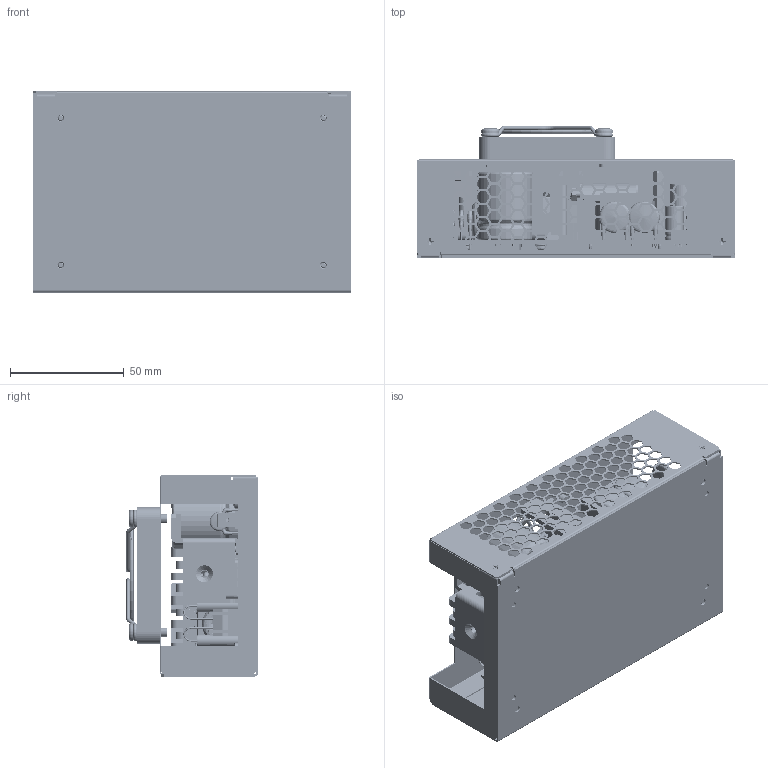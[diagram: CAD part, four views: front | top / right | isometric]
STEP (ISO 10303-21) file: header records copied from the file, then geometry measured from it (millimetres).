
FILE_DESCRIPTION (( 'STEP AP214' ), '1' );
FILE_NAME ('GCS250-TF.STEP', '2017-04-03T21:44:47', ( '' ), ( '' ), 'SwSTEP 2.0', 'SolidWorks 2016', '' );
FILE_SCHEMA (( 'AUTOMOTIVE_DESIGN' ));
Length unit declared in the file: inch
Products named in the file (48): L4; Fan 60mm x 10mm_FAN 60X10MM; 10015063A0; Conn_MLX_KK100_Hdr_02P; 1001436601; INSULATOR 10006903; Capacitor Disc_0.550 D_0.400 C; GCS250-BASE; SO-3.5M3-6ZI; Capacitor Elec_10mm D_25mm; Screw_PHP_M3 Sq Cone_01_8mm; SMPS-M2.5; Faston .25 X .032; Washer_Square_Cone_M3_8mm od_01; BASE-1.6H; Pot_Top adj_Type1_01; SCREW_PPH_M3_01_8mm; RES-3W; GCS250; GCS250-TF; TO92_01; inductor L5_25mm; Capacitor Film_18x11mm_15 LS_19mm H; Conn_JST_S10B-PHDSS-B_Vertical_1; Inductor Toroid_18.0mm OD_7mm Width; Screw_Sq Cone_no 4_01_.250; Bridge Rectifier_GBU6K_Lead trimed; Nut_Keps_4-40_Star_01; Capacitor Disc_0.300 D X .40 LS; Screw_Flat Head Phillips (Metric)_(1314)_M3 x 8; FUSE-0; CON MLX  .156 06P; TO220_3P_01; CON MLX  .156 3P; CAP FILM_17x5x11MM_15LS; Capacitor Elec_25mm D_30mm H; Inductor Toroid_20.0mm OD; M2.5X4_92010A012; 1001510201; Capacitor Elec_8mm D_20mm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
Assembly tree (83 placements, depth 4):
  GCS250-TF
    GCS250-BASE
      BASE-1.6H
      SMPS-M2.5  x2
      SO-3.5M3-6ZI  x4
      INSULATOR 10006903
      GCS250
        10015063A0
        10015867A0  x2
        Xfmr_GCS150
        1001510303
        1001510201
        Capacitor Elec_25mm D_30mm H
        CON MLX  .156 3P
        CON MLX  .156 06P
        FUSE-0  x2
        Capacitor Disc_0.300 D X .40 LS  x3
        Bridge Rectifier_GBU6K_Lead trimed
        Inductor Toroid_18.0mm OD_7mm Width  x2
        Capacitor Film_18x11mm_15 LS_19mm H  x2
        TO92_01  x2
        RES-3W  x2
        Pot_Top adj_Type1_01
        Faston .25 X .032
        Capacitor Elec_10mm D_25mm  x3
        Capacitor Disc_0.550 D_0.400 C  x4
        Conn_MLX_KK100_Hdr_02P
        L4
        Capacitor Elec_08mm D_13mm H  x2
        Capacitor Elec_06.3mm D_13mm H
        Capacitor Elec_8mm D_20mm
        Inductor Toroid_20.0mm OD
        CAP FILM_17x5x11MM_15LS  x2
        TO220_3P_01  x4
        Screw_Flat Head Phillips (Metric)_(1314)_M3 x 8  x3
        Nut_Keps_4-40_Star_01  x3
        Screw_Sq Cone_no 4_01_.250  x2
        Conn_JST_S10B-PHDSS-B_Vertical_1
        inductor L5_25mm
      Screw_PHP_M3 Sq Cone_01_8mm  x4
        SCREW_PPH_M3_01_8mm
        Washer_Square_Cone_M3_8mm od_01
    1001436601
      1001436601
      Fan 60mm x 10mm_FAN 60X10MM
      FAN-GARD-60X60-01
      SNAP-RIVET-SR4-15L  x4
    M2.5X4_92010A012  x4
Bounding box: 139.7 x 57.88 x 88.47 mm (x, y, z)
Volume: 157560.8 mm3; surface area: 190314.1 mm2
Topology: 118 solids, 118 shells, 5017 faces, 12794 edges, 8176 vertices
Faces by surface type: plane 2710, cylinder 1320, bspline 417, cone 406, torus 156, sphere 8
Entity records: 127673 total; most frequent: CARTESIAN_POINT 30452, ORIENTED_EDGE 18352, DIRECTION 17879, EDGE_CURVE 9176, LINE 6133, VECTOR 6133, VERTEX_POINT 5930, AXIS2_PLACEMENT_3D 5873
